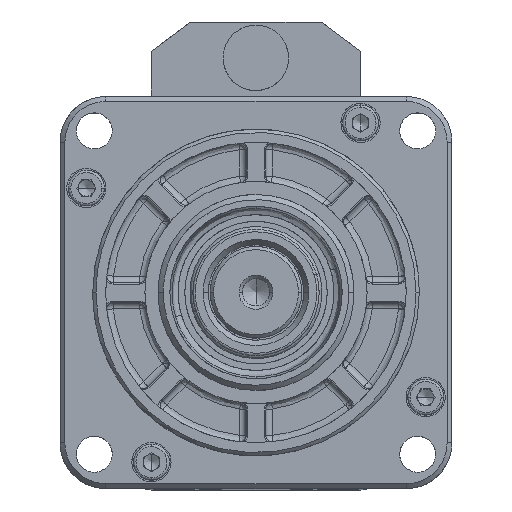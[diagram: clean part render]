
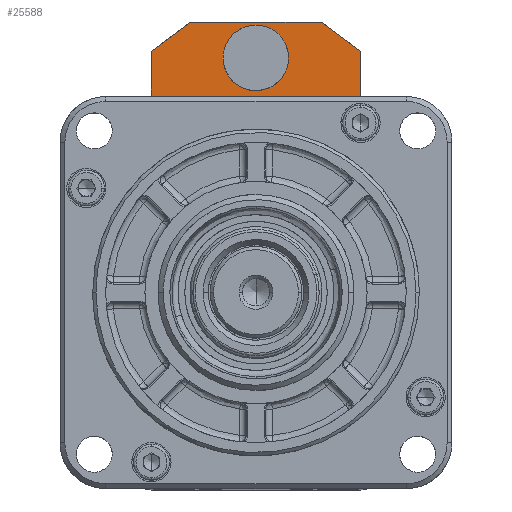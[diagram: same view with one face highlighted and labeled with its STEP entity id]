
A CAD part, top view. The second image highlights one B-rep face of the part: STEP entity #25588.
In plain terms, the highlighted free-form (B-spline) face has degree [1, 1] with [2, 2] control points.
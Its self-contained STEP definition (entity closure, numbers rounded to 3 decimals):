
#780 = CARTESIAN_POINT ( 'NONE',  ( -17.3, 31.246, -62.521 ) ) ;
#1436 = EDGE_CURVE ( 'NONE', #6948, #34173, #30054, .T. ) ;
#2872 = CARTESIAN_POINT ( 'NONE',  ( 8.7, 26.746, -62.521 ) ) ;
#3472 = ORIENTED_EDGE ( 'NONE', *, *, #15458, .F. ) ;
#3657 = EDGE_CURVE ( 'NONE', #15416, #25772, #11612, .T. ) ;
#5042 = CARTESIAN_POINT ( 'NONE',  ( 8.7, 26.746, -62.521 ) ) ;
#5479 = FACE_OUTER_BOUND ( 'NONE', #16793, .T. ) ;
#6622 = CARTESIAN_POINT ( 'NONE',  ( -23.3, 19.746, -62.521 ) ) ;
#6948 = VERTEX_POINT ( 'NONE', #2872 ) ;
#9618 = CARTESIAN_POINT ( 'NONE',  ( -23.3, 26.746, -62.521 ) ) ;
#9925 = CARTESIAN_POINT ( 'NONE',  ( 2.7, 31.246, -62.521 ) ) ;
#10527 = CARTESIAN_POINT ( 'NONE',  ( 8.7, 19.746, -62.521 ) ) ;
#10722 = B_SPLINE_SURFACE_WITH_KNOTS ( 'NONE', 1, 1, ( 
 ( #20894, #17855 ),
 ( #11697, #23936 ) ),
 .UNSPECIFIED., .F., .F., .F.,
 ( 2, 2 ),
 ( 2, 2 ),
 ( 0., 1. ),
 ( 0., 1. ),
 .UNSPECIFIED. ) ;
#10968 = B_SPLINE_CURVE_WITH_KNOTS ( 'NONE', 1,
 ( #10527, #16586 ),
 .UNSPECIFIED., .F., .F.,
 ( 2, 2 ),
 ( 0., 1. ),
 .UNSPECIFIED. ) ;
#11044 = EDGE_CURVE ( 'NONE', #11756, #38113, #17809, .T. ) ;
#11502 = CARTESIAN_POINT ( 'NONE',  ( 8.7, 19.746, -62.521 ) ) ;
#11612 = B_SPLINE_CURVE_WITH_KNOTS ( 'NONE', 1,
 ( #9618, #21480 ),
 .UNSPECIFIED., .F., .F.,
 ( 2, 2 ),
 ( 0., 1. ),
 .UNSPECIFIED. ) ;
#11697 = CARTESIAN_POINT ( 'NONE',  ( 8.7, 19.746, -62.521 ) ) ;
#11756 = VERTEX_POINT ( 'NONE', #23573 ) ;
#15240 = CARTESIAN_POINT ( 'NONE',  ( -17.3, 31.246, -62.521 ) ) ;
#15416 = VERTEX_POINT ( 'NONE', #38895 ) ;
#15458 = EDGE_CURVE ( 'NONE', #15416, #11756, #17029, .T. ) ;
#16586 = CARTESIAN_POINT ( 'NONE',  ( -23.3, 19.746, -62.521 ) ) ;
#16793 = EDGE_LOOP ( 'NONE', ( #21916, #3472, #29996, #19734, #29584, #22989 ) ) ;
#17029 = B_SPLINE_CURVE_WITH_KNOTS ( 'NONE', 1,
 ( #21168, #15240 ),
 .UNSPECIFIED., .F., .F.,
 ( 2, 2 ),
 ( 0., 1. ),
 .UNSPECIFIED. ) ;
#17809 = B_SPLINE_CURVE_WITH_KNOTS ( 'NONE', 1,
 ( #780, #9925 ),
 .UNSPECIFIED., .F., .F.,
 ( 2, 2 ),
 ( 0., 1. ),
 .UNSPECIFIED. ) ;
#17855 = CARTESIAN_POINT ( 'NONE',  ( -23.3, 31.246, -62.521 ) ) ;
#19734 = ORIENTED_EDGE ( 'NONE', *, *, #28256, .F. ) ;
#20894 = CARTESIAN_POINT ( 'NONE',  ( 8.7, 31.246, -62.521 ) ) ;
#21168 = CARTESIAN_POINT ( 'NONE',  ( -23.3, 26.746, -62.521 ) ) ;
#21480 = CARTESIAN_POINT ( 'NONE',  ( -23.3, 19.746, -62.521 ) ) ;
#21916 = ORIENTED_EDGE ( 'NONE', *, *, #11044, .F. ) ;
#22487 = CARTESIAN_POINT ( 'NONE',  ( 2.7, 31.246, -62.521 ) ) ;
#22989 = ORIENTED_EDGE ( 'NONE', *, *, #28725, .F. ) ;
#23573 = CARTESIAN_POINT ( 'NONE',  ( -17.3, 31.246, -62.521 ) ) ;
#23936 = CARTESIAN_POINT ( 'NONE',  ( -23.3, 19.746, -62.521 ) ) ;
#25588 = ADVANCED_FACE ( 'NONE', ( #5479 ), #10722, .F. ) ;
#25772 = VERTEX_POINT ( 'NONE', #6622 ) ;
#26186 = CARTESIAN_POINT ( 'NONE',  ( 2.7, 31.246, -62.521 ) ) ;
#28256 = EDGE_CURVE ( 'NONE', #34173, #25772, #10968, .T. ) ;
#28725 = EDGE_CURVE ( 'NONE', #38113, #6948, #35413, .T. ) ;
#29584 = ORIENTED_EDGE ( 'NONE', *, *, #1436, .F. ) ;
#29948 = CARTESIAN_POINT ( 'NONE',  ( 8.7, 19.746, -62.521 ) ) ;
#29996 = ORIENTED_EDGE ( 'NONE', *, *, #3657, .T. ) ;
#30054 = B_SPLINE_CURVE_WITH_KNOTS ( 'NONE', 1,
 ( #35409, #11502 ),
 .UNSPECIFIED., .F., .F.,
 ( 2, 2 ),
 ( 0., 1. ),
 .UNSPECIFIED. ) ;
#34173 = VERTEX_POINT ( 'NONE', #29948 ) ;
#35409 = CARTESIAN_POINT ( 'NONE',  ( 8.7, 26.746, -62.521 ) ) ;
#35413 = B_SPLINE_CURVE_WITH_KNOTS ( 'NONE', 1,
 ( #26186, #5042 ),
 .UNSPECIFIED., .F., .F.,
 ( 2, 2 ),
 ( 0., 1. ),
 .UNSPECIFIED. ) ;
#38113 = VERTEX_POINT ( 'NONE', #22487 ) ;
#38895 = CARTESIAN_POINT ( 'NONE',  ( -23.3, 26.746, -62.521 ) ) ;
